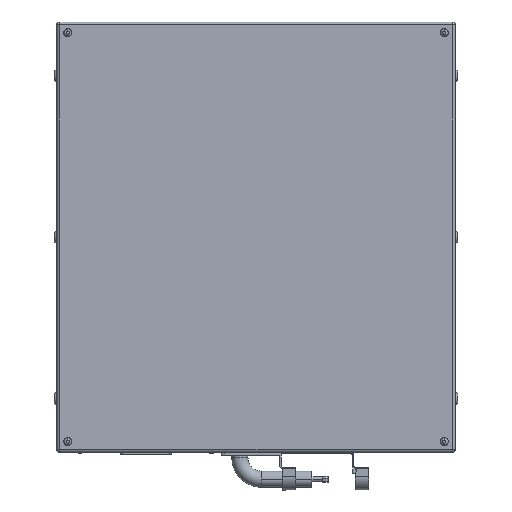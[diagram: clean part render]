
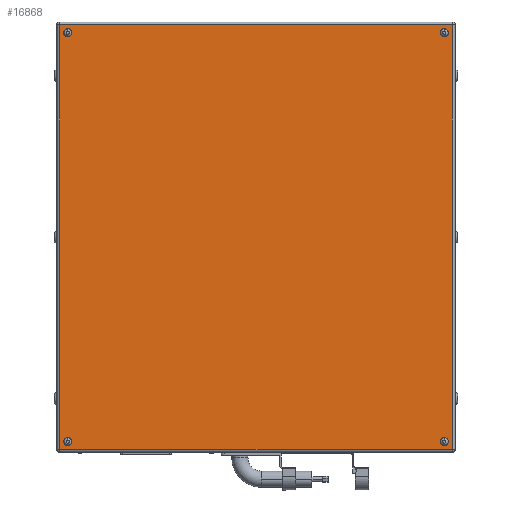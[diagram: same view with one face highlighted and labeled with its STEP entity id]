
A CAD part, front view. The second image highlights one B-rep face of the part: STEP entity #16868.
In plain terms, the highlighted planar face has unit normal (0, -1, 0).
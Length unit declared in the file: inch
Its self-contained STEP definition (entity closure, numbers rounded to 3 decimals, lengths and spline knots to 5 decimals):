
#386 = LINE ( 'NONE', #18780, #17802 ) ;
#535 = VERTEX_POINT ( 'NONE', #10663 ) ;
#753 = FACE_BOUND ( 'NONE', #19807, .T. ) ;
#839 = CARTESIAN_POINT ( 'NONE',  ( -17.5, -12., -18.62598 ) ) ;
#1163 = LINE ( 'NONE', #10275, #3356 ) ;
#1519 = CARTESIAN_POINT ( 'NONE',  ( -17.5, -12., 18.62598 ) ) ;
#1705 = CIRCLE ( 'NONE', #3638, 0.37402 ) ;
#1707 = CARTESIAN_POINT ( 'NONE',  ( 18.3, -12., -19.734 ) ) ;
#2147 = FACE_BOUND ( 'NONE', #7285, .T. ) ;
#2228 = ORIENTED_EDGE ( 'NONE', *, *, #17486, .F. ) ;
#2327 = EDGE_CURVE ( 'NONE', #535, #14608, #17671, .T. ) ;
#2674 = EDGE_CURVE ( 'NONE', #17736, #8472, #5225, .T. ) ;
#2697 = DIRECTION ( 'NONE',  ( 0., 0., -1. ) ) ;
#2981 = CARTESIAN_POINT ( 'NONE',  ( -17.5, -12., 19.37402 ) ) ;
#3156 = VERTEX_POINT ( 'NONE', #2981 ) ;
#3279 = ORIENTED_EDGE ( 'NONE', *, *, #13623, .T. ) ;
#3298 = CIRCLE ( 'NONE', #9066, 0.37402 ) ;
#3356 = VECTOR ( 'NONE', #16473, 39.37008 ) ;
#3386 = DIRECTION ( 'NONE',  ( 0., 0., -1. ) ) ;
#3439 = ORIENTED_EDGE ( 'NONE', *, *, #14621, .F. ) ;
#3638 = AXIS2_PLACEMENT_3D ( 'NONE', #17929, #4568, #12035 ) ;
#3807 = CIRCLE ( 'NONE', #7984, 0.37402 ) ;
#4492 = VECTOR ( 'NONE', #9241, 39.37008 ) ;
#4568 = DIRECTION ( 'NONE',  ( 0., -1., 0. ) ) ;
#5057 = EDGE_LOOP ( 'NONE', ( #9913, #16024, #8396, #3279 ) ) ;
#5138 = AXIS2_PLACEMENT_3D ( 'NONE', #15465, #17198, #19894 ) ;
#5225 = CIRCLE ( 'NONE', #14159, 0.37402 ) ;
#5337 = EDGE_CURVE ( 'NONE', #17611, #10061, #1163, .T. ) ;
#5403 = EDGE_CURVE ( 'NONE', #8472, #17736, #6251, .T. ) ;
#5714 = DIRECTION ( 'NONE',  ( 0., -1., 0. ) ) ;
#5715 = CIRCLE ( 'NONE', #6374, 0.37402 ) ;
#6251 = CIRCLE ( 'NONE', #13272, 0.37402 ) ;
#6374 = AXIS2_PLACEMENT_3D ( 'NONE', #15049, #16682, #2697 ) ;
#6455 = CARTESIAN_POINT ( 'NONE',  ( -17.5, -12., 19. ) ) ;
#6696 = ORIENTED_EDGE ( 'NONE', *, *, #5403, .F. ) ;
#6701 = ORIENTED_EDGE ( 'NONE', *, *, #2674, .F. ) ;
#6764 = DIRECTION ( 'NONE',  ( 0., 0., -1. ) ) ;
#6797 = CARTESIAN_POINT ( 'NONE',  ( 0., -12., 0. ) ) ;
#6874 = VERTEX_POINT ( 'NONE', #8997 ) ;
#7109 = ORIENTED_EDGE ( 'NONE', *, *, #2327, .F. ) ;
#7285 = EDGE_LOOP ( 'NONE', ( #6696, #6701 ) ) ;
#7984 = AXIS2_PLACEMENT_3D ( 'NONE', #13420, #5714, #10591 ) ;
#8048 = AXIS2_PLACEMENT_3D ( 'NONE', #18156, #8178, #6764 ) ;
#8178 = DIRECTION ( 'NONE',  ( 0., -1., 0. ) ) ;
#8333 = CARTESIAN_POINT ( 'NONE',  ( -17.5, -12., -19.37402 ) ) ;
#8396 = ORIENTED_EDGE ( 'NONE', *, *, #5337, .T. ) ;
#8438 = CARTESIAN_POINT ( 'NONE',  ( 18.234, -12., 19.734 ) ) ;
#8472 = VERTEX_POINT ( 'NONE', #839 ) ;
#8488 = DIRECTION ( 'NONE',  ( 0., 0., -1. ) ) ;
#8568 = DIRECTION ( 'NONE',  ( 0., -1., 0. ) ) ;
#8601 = CARTESIAN_POINT ( 'NONE',  ( 17.5, -12., 19.37402 ) ) ;
#8823 = CARTESIAN_POINT ( 'NONE',  ( 17.5, -12., -18.62598 ) ) ;
#8825 = VERTEX_POINT ( 'NONE', #8438 ) ;
#8997 = CARTESIAN_POINT ( 'NONE',  ( 17.5, -12., -19.37402 ) ) ;
#9066 = AXIS2_PLACEMENT_3D ( 'NONE', #6455, #18611, #14052 ) ;
#9241 = DIRECTION ( 'NONE',  ( 0., 0., 1. ) ) ;
#9344 = LINE ( 'NONE', #13754, #4492 ) ;
#9763 = PLANE ( 'NONE',  #10475 ) ;
#9913 = ORIENTED_EDGE ( 'NONE', *, *, #14223, .T. ) ;
#10061 = VERTEX_POINT ( 'NONE', #12001 ) ;
#10236 = DIRECTION ( 'NONE',  ( 0., -1., 0. ) ) ;
#10275 = CARTESIAN_POINT ( 'NONE',  ( -18.234, -12., -19.8 ) ) ;
#10475 = AXIS2_PLACEMENT_3D ( 'NONE', #6797, #8568, #8488 ) ;
#10591 = DIRECTION ( 'NONE',  ( 0., 0., -1. ) ) ;
#10663 = CARTESIAN_POINT ( 'NONE',  ( 17.5, -12., 18.62598 ) ) ;
#10798 = CARTESIAN_POINT ( 'NONE',  ( 18.234, -12., -19.734 ) ) ;
#10945 = FACE_BOUND ( 'NONE', #14180, .T. ) ;
#11749 = CARTESIAN_POINT ( 'NONE',  ( -17.5, -12., -19. ) ) ;
#11818 = CIRCLE ( 'NONE', #8048, 0.37402 ) ;
#11993 = EDGE_LOOP ( 'NONE', ( #19684, #2228 ) ) ;
#12001 = CARTESIAN_POINT ( 'NONE',  ( -18.234, -12., -19.734 ) ) ;
#12035 = DIRECTION ( 'NONE',  ( 0., 0., -1. ) ) ;
#13272 = AXIS2_PLACEMENT_3D ( 'NONE', #14010, #18568, #3386 ) ;
#13420 = CARTESIAN_POINT ( 'NONE',  ( 17.5, -12., -19. ) ) ;
#13490 = EDGE_CURVE ( 'NONE', #17881, #6874, #5715, .T. ) ;
#13550 = CARTESIAN_POINT ( 'NONE',  ( -18.234, -12., 19.734 ) ) ;
#13623 = EDGE_CURVE ( 'NONE', #10061, #17674, #17195, .T. ) ;
#13754 = CARTESIAN_POINT ( 'NONE',  ( 18.234, -12., 19.8 ) ) ;
#13940 = DIRECTION ( 'NONE',  ( 1., 0., 0. ) ) ;
#14010 = CARTESIAN_POINT ( 'NONE',  ( -17.5, -12., -19. ) ) ;
#14052 = DIRECTION ( 'NONE',  ( 0., 0., -1. ) ) ;
#14159 = AXIS2_PLACEMENT_3D ( 'NONE', #11749, #10236, #16427 ) ;
#14180 = EDGE_LOOP ( 'NONE', ( #17547, #7109 ) ) ;
#14223 = EDGE_CURVE ( 'NONE', #17674, #8825, #9344, .T. ) ;
#14427 = DIRECTION ( 'NONE',  ( -1., 0., 0. ) ) ;
#14608 = VERTEX_POINT ( 'NONE', #8601 ) ;
#14621 = EDGE_CURVE ( 'NONE', #6874, #17881, #3807, .T. ) ;
#15049 = CARTESIAN_POINT ( 'NONE',  ( 17.5, -12., -19. ) ) ;
#15465 = CARTESIAN_POINT ( 'NONE',  ( 17.5, -12., 19. ) ) ;
#16024 = ORIENTED_EDGE ( 'NONE', *, *, #19532, .T. ) ;
#16427 = DIRECTION ( 'NONE',  ( 0., 0., -1. ) ) ;
#16473 = DIRECTION ( 'NONE',  ( 0., 0., -1. ) ) ;
#16682 = DIRECTION ( 'NONE',  ( 0., -1., 0. ) ) ;
#16868 = ADVANCED_FACE ( 'NONE', ( #10945, #17165, #753, #2147, #18925 ), #9763, .T. ) ;
#17165 = FACE_BOUND ( 'NONE', #11993, .T. ) ;
#17195 = LINE ( 'NONE', #1707, #17616 ) ;
#17198 = DIRECTION ( 'NONE',  ( 0., -1., 0. ) ) ;
#17271 = VERTEX_POINT ( 'NONE', #1519 ) ;
#17486 = EDGE_CURVE ( 'NONE', #17271, #3156, #11818, .T. ) ;
#17547 = ORIENTED_EDGE ( 'NONE', *, *, #19135, .F. ) ;
#17611 = VERTEX_POINT ( 'NONE', #13550 ) ;
#17616 = VECTOR ( 'NONE', #13940, 39.37008 ) ;
#17671 = CIRCLE ( 'NONE', #5138, 0.37402 ) ;
#17674 = VERTEX_POINT ( 'NONE', #10798 ) ;
#17736 = VERTEX_POINT ( 'NONE', #8333 ) ;
#17802 = VECTOR ( 'NONE', #14427, 39.37008 ) ;
#17881 = VERTEX_POINT ( 'NONE', #8823 ) ;
#17929 = CARTESIAN_POINT ( 'NONE',  ( 17.5, -12., 19. ) ) ;
#18156 = CARTESIAN_POINT ( 'NONE',  ( -17.5, -12., 19. ) ) ;
#18405 = ORIENTED_EDGE ( 'NONE', *, *, #13490, .F. ) ;
#18568 = DIRECTION ( 'NONE',  ( 0., -1., 0. ) ) ;
#18611 = DIRECTION ( 'NONE',  ( 0., -1., 0. ) ) ;
#18780 = CARTESIAN_POINT ( 'NONE',  ( -18.3, -12., 19.734 ) ) ;
#18925 = FACE_OUTER_BOUND ( 'NONE', #5057, .T. ) ;
#19135 = EDGE_CURVE ( 'NONE', #14608, #535, #1705, .T. ) ;
#19532 = EDGE_CURVE ( 'NONE', #8825, #17611, #386, .T. ) ;
#19643 = EDGE_CURVE ( 'NONE', #3156, #17271, #3298, .T. ) ;
#19684 = ORIENTED_EDGE ( 'NONE', *, *, #19643, .F. ) ;
#19807 = EDGE_LOOP ( 'NONE', ( #18405, #3439 ) ) ;
#19894 = DIRECTION ( 'NONE',  ( 0., 0., -1. ) ) ;
